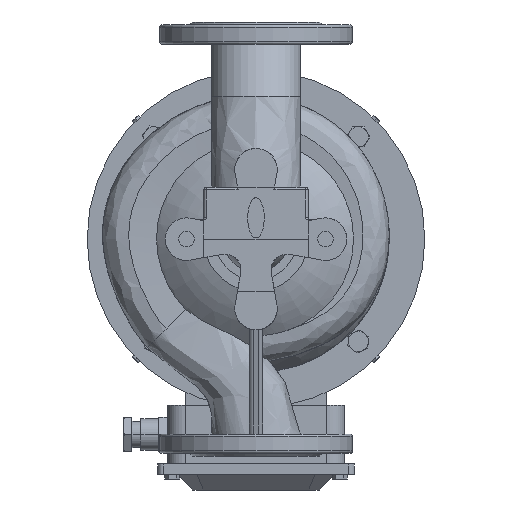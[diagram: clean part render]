
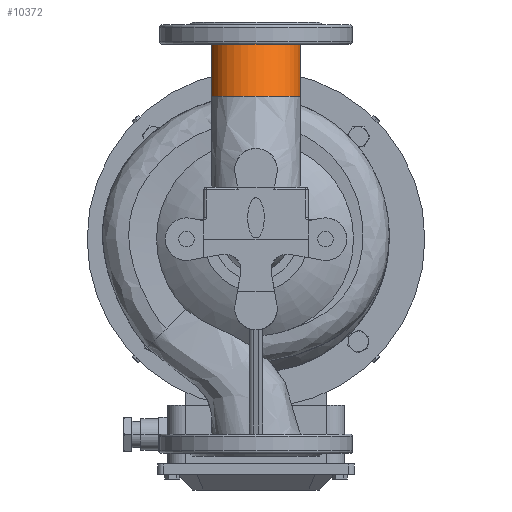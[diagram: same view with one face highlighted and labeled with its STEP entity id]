
A CAD part, front view. The second image highlights one B-rep face of the part: STEP entity #10372.
In plain terms, the highlighted free-form (B-spline) face has degree [3, 1] with [4, 2] control points.
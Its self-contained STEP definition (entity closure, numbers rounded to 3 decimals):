
#76 = CARTESIAN_POINT ( 'NONE',  ( 46., -31.292, 147.801 ) ) ;
#5307 = EDGE_CURVE ( 'NONE', #9472, #47714, #30896, .T. ) ;
#5449 = VERTEX_POINT ( 'NONE', #43675 ) ;
#8093 = CIRCLE ( 'NONE', #40326, 46. ) ;
#9472 = VERTEX_POINT ( 'NONE', #37637 ) ;
#10372 = ADVANCED_FACE ( 'NONE', ( #58605 ), #45687, .F. ) ;
#10852 = CARTESIAN_POINT ( 'NONE',  ( 46., 0., 202. ) ) ;
#13006 = DIRECTION ( 'NONE',  ( 0., 0., -1. ) ) ;
#15117 = CARTESIAN_POINT ( 'NONE',  ( -46., -31.292, 147.801 ) ) ;
#16487 = VERTEX_POINT ( 'NONE', #38534 ) ;
#18199 = ORIENTED_EDGE ( 'NONE', *, *, #5307, .F. ) ;
#21663 = CARTESIAN_POINT ( 'NONE',  ( 46., 0., 202. ) ) ;
#21800 = ORIENTED_EDGE ( 'NONE', *, *, #51749, .F. ) ;
#22235 = ORIENTED_EDGE ( 'NONE', *, *, #54111, .T. ) ;
#26498 = CARTESIAN_POINT ( 'NONE',  ( -46., -31.292, 147.801 ) ) ;
#30496 = ORIENTED_EDGE ( 'NONE', *, *, #35788, .T. ) ;
#30896 = B_SPLINE_CURVE_WITH_KNOTS ( 'NONE', 1,
 ( #15117, #31807 ),
 .UNSPECIFIED., .F., .F.,
 ( 2, 2 ),
 ( 0., 1. ),
 .UNSPECIFIED. ) ;
#31807 = CARTESIAN_POINT ( 'NONE',  ( -46., 0., 202. ) ) ;
#32064 = CARTESIAN_POINT ( 'NONE',  ( 46., -123.292, 147.801 ) ) ;
#32418 = CARTESIAN_POINT ( 'NONE',  ( 46., -92., 202. ) ) ;
#34371 = DIRECTION ( 'NONE',  ( -1., 0., 0. ) ) ;
#35788 = EDGE_CURVE ( 'NONE', #5449, #47714, #8093, .T. ) ;
#37637 = CARTESIAN_POINT ( 'NONE',  ( -46., -31.292, 147.801 ) ) ;
#38534 = CARTESIAN_POINT ( 'NONE',  ( 46., -31.292, 147.801 ) ) ;
#40326 = AXIS2_PLACEMENT_3D ( 'NONE', #44032, #13006, #54841 ) ;
#43243 = CARTESIAN_POINT ( 'NONE',  ( -46., 0., 202. ) ) ;
#43675 = CARTESIAN_POINT ( 'NONE',  ( 46., 0., 202. ) ) ;
#44032 = CARTESIAN_POINT ( 'NONE',  ( 0., 0., 202. ) ) ;
#45687 =( BOUNDED_SURFACE ( )  B_SPLINE_SURFACE ( 3, 1, ( 
 ( #76, #10852 ),
 ( #32064, #32418 ),
 ( #48834, #47788 ),
 ( #26498, #43243 ) ),
 .UNSPECIFIED., .F., .F., .F. ) 
 B_SPLINE_SURFACE_WITH_KNOTS ( ( 4, 4 ),
 ( 2, 2 ),
 ( 0.5, 1. ),
 ( 0., 1. ),
 .UNSPECIFIED. ) 
 GEOMETRIC_REPRESENTATION_ITEM ( )  RATIONAL_B_SPLINE_SURFACE ( (
 ( 1., 1.),
 ( 0.333, 0.333),
 ( 0.333, 0.333),
 ( 1., 1.) ) ) 
 REPRESENTATION_ITEM ( '' )  SURFACE ( )  );
#47249 = B_SPLINE_CURVE_WITH_KNOTS ( 'NONE', 1,
 ( #64173, #21663 ),
 .UNSPECIFIED., .F., .F.,
 ( 2, 2 ),
 ( 0., 1. ),
 .UNSPECIFIED. ) ;
#47714 = VERTEX_POINT ( 'NONE', #58118 ) ;
#47788 = CARTESIAN_POINT ( 'NONE',  ( -46., -92., 202. ) ) ;
#48834 = CARTESIAN_POINT ( 'NONE',  ( -46., -123.292, 147.801 ) ) ;
#50092 = CARTESIAN_POINT ( 'NONE',  ( 0., -31.292, 147.801 ) ) ;
#50440 = DIRECTION ( 'NONE',  ( 0., 0., -1. ) ) ;
#51749 = EDGE_CURVE ( 'NONE', #16487, #9472, #65449, .T. ) ;
#54111 = EDGE_CURVE ( 'NONE', #16487, #5449, #47249, .T. ) ;
#54841 = DIRECTION ( 'NONE',  ( -1., 0., 0. ) ) ;
#56410 = EDGE_LOOP ( 'NONE', ( #21800, #22235, #30496, #18199 ) ) ;
#58118 = CARTESIAN_POINT ( 'NONE',  ( -46., 0., 202. ) ) ;
#58605 = FACE_OUTER_BOUND ( 'NONE', #56410, .T. ) ;
#64173 = CARTESIAN_POINT ( 'NONE',  ( 46., -31.292, 147.801 ) ) ;
#65449 = CIRCLE ( 'NONE', #67679, 46. ) ;
#67679 = AXIS2_PLACEMENT_3D ( 'NONE', #50092, #50440, #34371 ) ;
